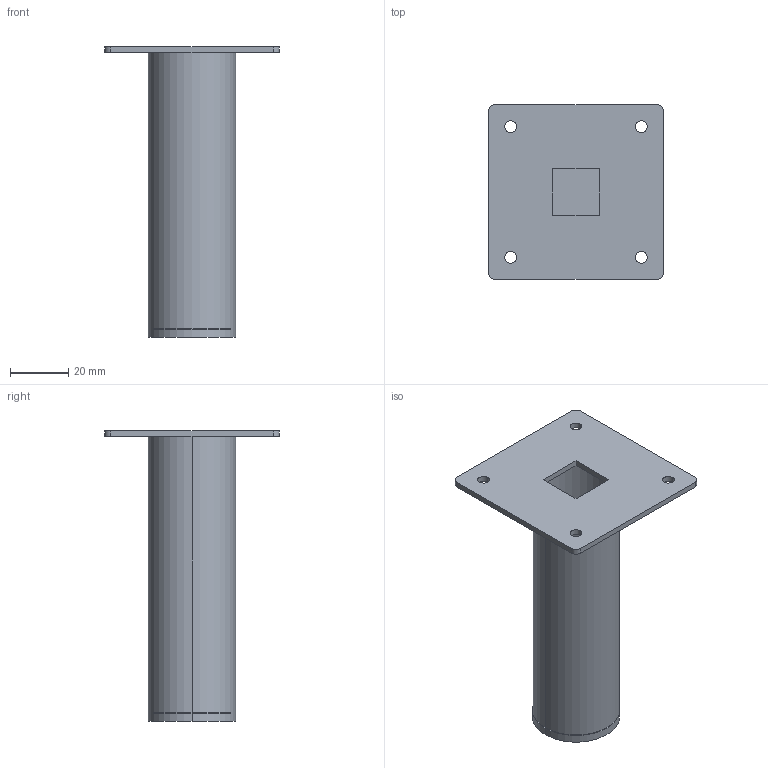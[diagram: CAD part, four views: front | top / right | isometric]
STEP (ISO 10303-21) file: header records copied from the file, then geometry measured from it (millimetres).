
FILE_DESCRIPTION( ( '' ), '1' );
FILE_NAME( 'D:/temp/hettich_stp/hettich/6.5_furniture_legs/table_legs/16875.stp', '2013-02-26T12:27:20', ( '' ), ( '' ), ' ', ' ', ' ' );
FILE_SCHEMA( ( 'automotive_design' ) );
Length unit declared in the file: millimetre
Products named in the file (1): 1
Bounding box: 60 x 60 x 100 mm (x, y, z)
Volume: 17338.2 mm3; surface area: 26285.9 mm2
Topology: 1 solids, 1 shells, 35 faces, 84 edges, 56 vertices
Faces by surface type: cylinder 20, plane 15
Entity records: 2058 total; most frequent: DIRECTION 196, STYLED_ITEM 176, PRESENTATION_STYLE_ASSIGNMENT 176, CARTESIAN_POINT 176, COLOUR_RGB 176, ORIENTED_EDGE 168, EDGE_CURVE 84, CURVE_STYLE 84
